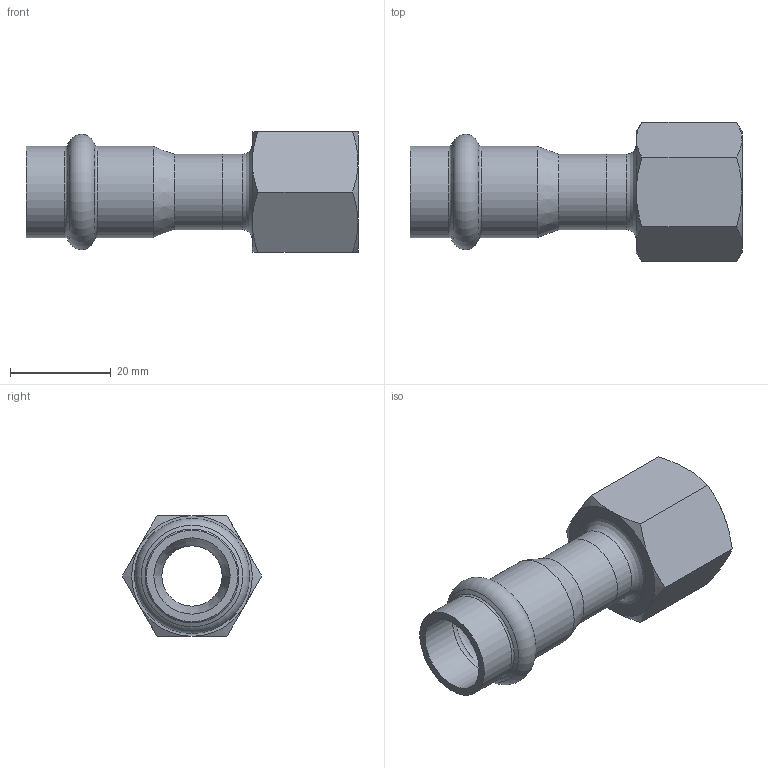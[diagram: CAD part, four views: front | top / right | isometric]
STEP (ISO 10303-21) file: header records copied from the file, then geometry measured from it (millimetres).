
FILE_DESCRIPTION((''),'2;1');
FILE_NAME('G:\Nirosan-Schmiedefeld\Technics\CAD\001 Serie 9.000\015\69270G1512H(3).stp','2018-08-28T08:28:09',('herberg'),(''),'Autodesk Inventor 2009','Autodesk Inventor 2009','');
FILE_SCHEMA(('AUTOMOTIVE_DESIGN { 1 0 10303 214 1 1 1 1 }'));
Length unit declared in the file: millimetre
Products named in the file (3): 69270G1512H(3); HM_6924315(0); IG1512(1)
Assembly tree (2 placements, depth 2):
  69270G1512H(3)
    HM_6924315(0)
    IG1512(1)
Bounding box: 66 x 27.71 x 24 mm (x, y, z)
Volume: 8767 mm3; surface area: 8446.8 mm2
Topology: 2 solids, 2 shells, 45 faces, 90 edges, 51 vertices
Faces by surface type: cone 17, plane 11, bspline 7, cylinder 7, torus 3
Full cylindrical faces by diameter (mm): 12 x1, 15 x2, 15.15 x2, 18.15 x2
Entity records: 1320 total; most frequent: CARTESIAN_POINT 465, DIRECTION 168, ORIENTED_EDGE 136, AXIS2_PLACEMENT_3D 81, EDGE_LOOP 72, EDGE_CURVE 68, VERTEX_POINT 50, FACE_OUTER_BOUND 45
